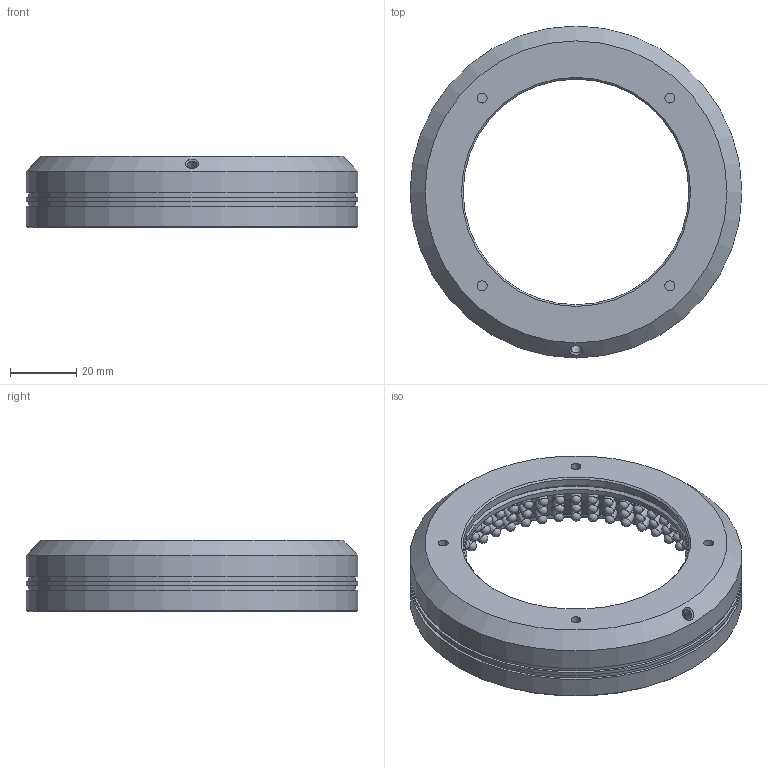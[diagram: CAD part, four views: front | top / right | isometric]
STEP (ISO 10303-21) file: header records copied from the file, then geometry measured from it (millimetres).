
FILE_DESCRIPTION((''),'2;1');
FILE_NAME('D:\上海创波-20181114\2-三维图纸\1-常用光源\WLDR系列\WLDR1系列-xxAGxx\WLDR-75AG100-.stp','2020-02-06T22:15:43',('Administrator'),(''),'Autodesk Inventor 2010','Autodesk Inventor 2010','');
FILE_SCHEMA(('AUTOMOTIVE_DESIGN { 1 0 10303 214 1 1 1 1 }'));
Length unit declared in the file: millimetre
Products named in the file (1): 零件16
Bounding box: 100 x 100 x 21.5 mm (x, y, z)
Volume: 44474.8 mm3; surface area: 39359 mm2
Topology: 145 solids, 145 shells, 917 faces, 2007 edges, 1239 vertices
Faces by surface type: plane 451, cylinder 311, sphere 144, cone 10, bspline 1
Full cylindrical faces by diameter (mm): 1 x3, 2 x4, 3 x149, 68 x2, 80 x1, 87 x1, 90 x1, 95 x1, 98.5 x2, 100 x3
Entity records: 22113 total; most frequent: DIRECTION 3828, CARTESIAN_POINT 3558, ORIENTED_EDGE 2732, AXIS2_PLACEMENT_3D 1553, EDGE_CURVE 1366, EDGE_LOOP 1120, STYLED_ITEM 1062, VERTEX_POINT 924
